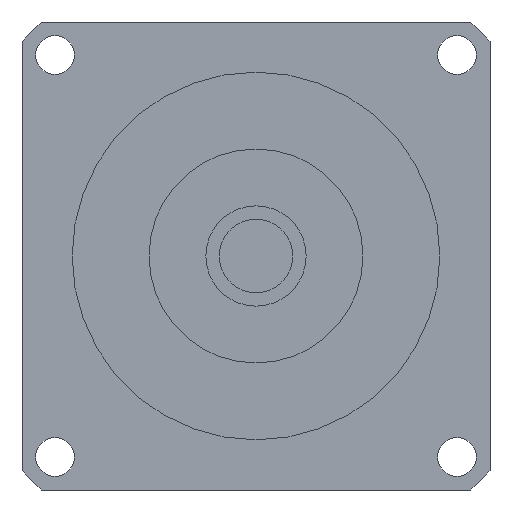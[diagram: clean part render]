
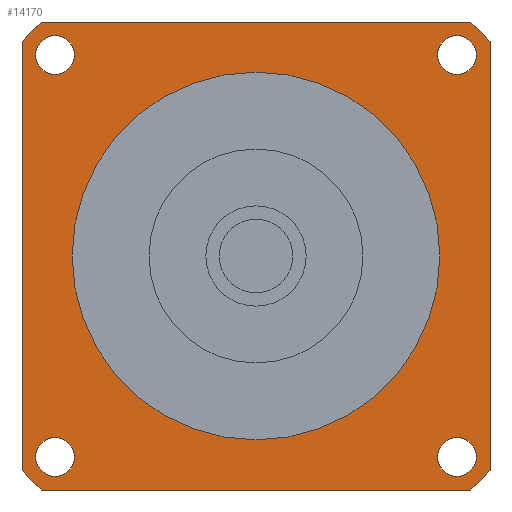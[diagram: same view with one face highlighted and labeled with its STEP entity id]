
A CAD part, left-side view. The second image highlights one B-rep face of the part: STEP entity #14170.
In plain terms, the highlighted planar face has unit normal (-1, 0, 0) as drawn and (0, 0, -1) by its records, which use the part's own axes.
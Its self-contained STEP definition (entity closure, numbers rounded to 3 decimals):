
#8940=CARTESIAN_POINT('',(27.152,-30.052,-37.1));
#8950=VERTEX_POINT('',#8940);
#8980=CARTESIAN_POINT('',(30.052,-30.052,-37.1));
#8990=DIRECTION('',(0.,0.,-1.));
#9000=DIRECTION('',(1.,0.,0.));
#9010=AXIS2_PLACEMENT_3D('',#8980,#8990,#9000);
#9020=CIRCLE('',#9010,2.9);
#9030=CARTESIAN_POINT('',(32.952,-30.052,-37.1));
#9040=VERTEX_POINT('',#9030);
#9050=EDGE_CURVE('',#9040,#8950,#9020,.T.);
#9290=CARTESIAN_POINT('',(-35.,-32.113,-37.1));
#9300=VERTEX_POINT('',#9290);
#9350=CARTESIAN_POINT('',(-35.,-35.,-37.1));
#9360=DIRECTION('',(0.,1.,0.));
#9370=VECTOR('',#9360,1000.);
#9380=LINE('',#9350,#9370);
#9390=CARTESIAN_POINT('',(-35.,32.113,-37.1));
#9400=VERTEX_POINT('',#9390);
#9410=EDGE_CURVE('',#9300,#9400,#9380,.T.);
#12690=CARTESIAN_POINT('',(-30.052,-27.152,-37.1));
#12700=VERTEX_POINT('',#12690);
#12730=CARTESIAN_POINT('',(-30.052,-30.052,-37.1));
#12740=DIRECTION('',(0.,0.,-1.));
#12750=DIRECTION('',(0.,-1.,0.));
#12760=AXIS2_PLACEMENT_3D('',#12730,#12740,#12750);
#12770=CIRCLE('',#12760,2.9);
#12780=CARTESIAN_POINT('',(-30.052,-32.952,-37.1));
#12790=VERTEX_POINT('',#12780);
#12800=EDGE_CURVE('',#12790,#12700,#12770,.T.);
#12920=CARTESIAN_POINT('',(35.,35.,-37.1));
#12930=DIRECTION('',(0.,0.,-1.));
#12940=DIRECTION('',(1.,0.,0.));
#12950=AXIS2_PLACEMENT_3D('',#12920,#12930,#12940);
#12960=PLANE('',#12950);
#12970=ORIENTED_EDGE('',*,*,#12800,.F.);
#12980=EDGE_CURVE('',#12700,#12790,#12770,.T.);
#12990=ORIENTED_EDGE('',*,*,#12980,.F.);
#13000=EDGE_LOOP('',(#12990,#12970));
#13010=FACE_BOUND('',#13000,.T.);
#13020=CARTESIAN_POINT('',(-30.052,30.052,-37.1));
#13030=DIRECTION('',(0.,0.,-1.));
#13040=DIRECTION('',(-1.,0.,0.));
#13050=AXIS2_PLACEMENT_3D('',#13020,#13030,#13040);
#13060=CIRCLE('',#13050,2.9);
#13070=CARTESIAN_POINT('',(-32.952,30.052,-37.1));
#13080=VERTEX_POINT('',#13070);
#13090=CARTESIAN_POINT('',(-27.152,30.052,-37.1));
#13100=VERTEX_POINT('',#13090);
#13110=EDGE_CURVE('',#13080,#13100,#13060,.T.);
#13120=ORIENTED_EDGE('',*,*,#13110,.F.);
#13130=EDGE_CURVE('',#13100,#13080,#13060,.T.);
#13140=ORIENTED_EDGE('',*,*,#13130,.F.);
#13150=EDGE_LOOP('',(#13140,#13120));
#13160=FACE_BOUND('',#13150,.T.);
#13170=CARTESIAN_POINT('',(30.052,30.052,-37.1));
#13180=DIRECTION('',(0.,0.,-1.));
#13190=DIRECTION('',(0.,1.,0.));
#13200=AXIS2_PLACEMENT_3D('',#13170,#13180,#13190);
#13210=CIRCLE('',#13200,2.9);
#13220=CARTESIAN_POINT('',(30.052,32.952,-37.1));
#13230=VERTEX_POINT('',#13220);
#13240=CARTESIAN_POINT('',(30.052,27.152,-37.1));
#13250=VERTEX_POINT('',#13240);
#13260=EDGE_CURVE('',#13230,#13250,#13210,.T.);
#13270=ORIENTED_EDGE('',*,*,#13260,.F.);
#13280=EDGE_CURVE('',#13250,#13230,#13210,.T.);
#13290=ORIENTED_EDGE('',*,*,#13280,.F.);
#13300=EDGE_LOOP('',(#13290,#13270));
#13310=FACE_BOUND('',#13300,.T.);
#13320=CARTESIAN_POINT('',(0.,0.,
-37.1));
#13330=DIRECTION('',(0.,0.,1.));
#13340=DIRECTION('',(0.,1.,0.));
#13350=AXIS2_PLACEMENT_3D('',#13320,#13330,#13340);
#13360=CIRCLE('',#13350,27.5);
#13370=CARTESIAN_POINT('',(-27.5,0.,-37.1));
#13380=VERTEX_POINT('',#13370);
#13390=CARTESIAN_POINT('',(27.5,0.,-37.1));
#13400=VERTEX_POINT('',#13390);
#13410=EDGE_CURVE('',#13380,#13400,#13360,.T.);
#13420=ORIENTED_EDGE('',*,*,#13410,.T.);
#13430=CARTESIAN_POINT('',(0.,27.5,-37.1));
#13440=VERTEX_POINT('',#13430);
#13450=EDGE_CURVE('',#13440,#13380,#13360,.T.);
#13460=ORIENTED_EDGE('',*,*,#13450,.T.);
#13470=EDGE_CURVE('',#13400,#13440,#13360,.T.);
#13480=ORIENTED_EDGE('',*,*,#13470,.T.);
#13490=EDGE_LOOP('',(#13480,#13460,#13420));
#13500=FACE_BOUND('',#13490,.T.);
#13510=CARTESIAN_POINT('',(-35.,35.,-37.1));
#13520=DIRECTION('',(1.,0.,0.));
#13530=VECTOR('',#13520,1000.);
#13540=LINE('',#13510,#13530);
#13550=CARTESIAN_POINT('',(-32.113,35.,-37.1));
#13560=VERTEX_POINT('',#13550);
#13570=CARTESIAN_POINT('',(32.113,35.,-37.1));
#13580=VERTEX_POINT('',#13570);
#13590=EDGE_CURVE('',#13560,#13580,#13540,.T.);
#13600=ORIENTED_EDGE('',*,*,#13590,.T.);
#13610=CARTESIAN_POINT('',(0.,0.,-37.1));
#13620=DIRECTION('',(0.,0.,-1.));
#13630=DIRECTION('',(1.,0.,0.));
#13640=AXIS2_PLACEMENT_3D('',#13610,#13620,#13630);
#13650=CIRCLE('',#13640,47.5);
#13660=EDGE_CURVE('',#9400,#13560,#13650,.T.);
#13670=ORIENTED_EDGE('',*,*,#13660,.T.);
#13680=ORIENTED_EDGE('',*,*,#9410,.T.);
#13690=CARTESIAN_POINT('',(0.,0.,-37.1));
#13700=DIRECTION('',(0.,0.,-1.));
#13710=DIRECTION('',(1.,0.,0.));
#13720=AXIS2_PLACEMENT_3D('',#13690,#13700,#13710);
#13730=CIRCLE('',#13720,47.5);
#13740=CARTESIAN_POINT('',(-32.113,-35.,-37.1));
#13750=VERTEX_POINT('',#13740);
#13760=EDGE_CURVE('',#13750,#9300,#13730,.T.);
#13770=ORIENTED_EDGE('',*,*,#13760,.T.);
#13780=CARTESIAN_POINT('',(35.,-35.,-37.1));
#13790=DIRECTION('',(-1.,0.,0.));
#13800=VECTOR('',#13790,1000.);
#13810=LINE('',#13780,#13800);
#13820=CARTESIAN_POINT('',(32.113,-35.,-37.1));
#13830=VERTEX_POINT('',#13820);
#13840=EDGE_CURVE('',#13830,#13750,#13810,.T.);
#13850=ORIENTED_EDGE('',*,*,#13840,.T.);
#13860=CARTESIAN_POINT('',(0.,0.,-37.1));
#13870=DIRECTION('',(0.,0.,-1.));
#13880=DIRECTION('',(1.,0.,0.));
#13890=AXIS2_PLACEMENT_3D('',#13860,#13870,#13880);
#13900=CIRCLE('',#13890,47.5);
#13910=CARTESIAN_POINT('',(35.,-32.113,-37.1));
#13920=VERTEX_POINT('',#13910);
#13930=EDGE_CURVE('',#13920,#13830,#13900,.T.);
#13940=ORIENTED_EDGE('',*,*,#13930,.T.);
#13950=CARTESIAN_POINT('',(35.,35.,-37.1));
#13960=DIRECTION('',(0.,-1.,0.));
#13970=VECTOR('',#13960,1000.);
#13980=LINE('',#13950,#13970);
#13990=CARTESIAN_POINT('',(35.,32.113,-37.1));
#14000=VERTEX_POINT('',#13990);
#14010=EDGE_CURVE('',#14000,#13920,#13980,.T.);
#14020=ORIENTED_EDGE('',*,*,#14010,.T.);
#14030=CARTESIAN_POINT('',(0.,0.,-37.1));
#14040=DIRECTION('',(0.,0.,-1.));
#14050=DIRECTION('',(1.,0.,0.));
#14060=AXIS2_PLACEMENT_3D('',#14030,#14040,#14050);
#14070=CIRCLE('',#14060,47.5);
#14080=EDGE_CURVE('',#13580,#14000,#14070,.T.);
#14090=ORIENTED_EDGE('',*,*,#14080,.T.);
#14100=EDGE_LOOP('',(#14090,#14020,#13940,#13850,#13770,#13680,#13670,
#13600));
#14110=FACE_OUTER_BOUND('',#14100,.T.);
#14120=ORIENTED_EDGE('',*,*,#9050,.F.);
#14130=EDGE_CURVE('',#8950,#9040,#9020,.T.);
#14140=ORIENTED_EDGE('',*,*,#14130,.F.);
#14150=EDGE_LOOP('',(#14140,#14120));
#14160=FACE_BOUND('',#14150,.T.);
#14170=ADVANCED_FACE('',(#13010,#13160,#13310,#13500,#14110,#14160),
#12960,.T.);
